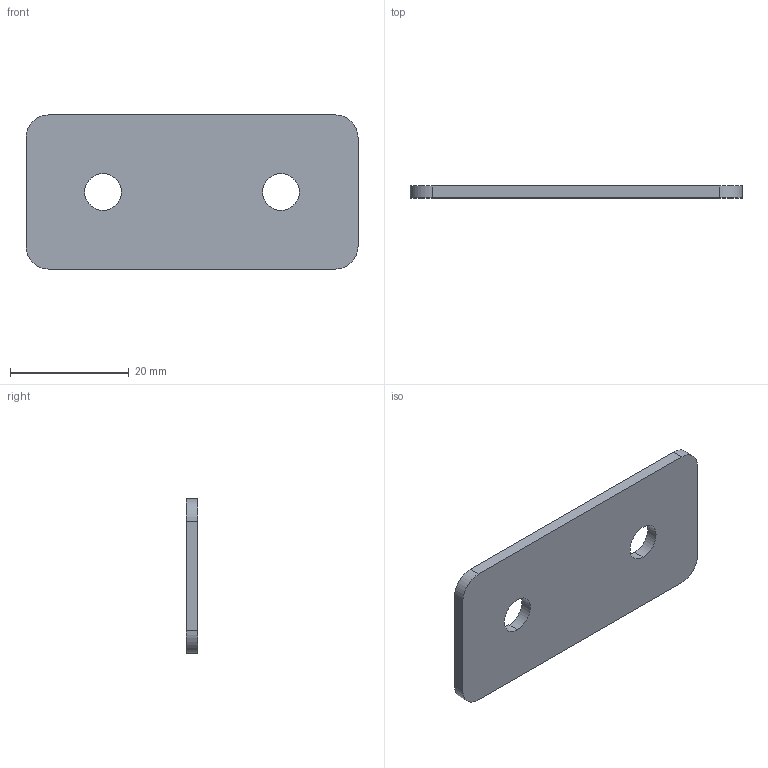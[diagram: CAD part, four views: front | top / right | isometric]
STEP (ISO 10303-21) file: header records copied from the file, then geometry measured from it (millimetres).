
FILE_DESCRIPTION (( 'STEP AP203' ), '1' );
FILE_NAME ('ﾏ-2-30.STEP', '2016-07-23T14:24:41', ( '' ), ( '' ), 'SwSTEP 2.0', 'SolidWorks 2014', '' );
FILE_SCHEMA (( 'CONFIG_CONTROL_DESIGN' ));
Length unit declared in the file: millimetre
Products named in the file (1): ﾏ-2-30
Bounding box: 56 x 2 x 26 mm (x, y, z)
Volume: 2766.7 mm3; surface area: 3159.6 mm2
Topology: 1 solids, 1 shells, 14 faces, 36 edges, 24 vertices
Faces by surface type: cylinder 8, plane 6
Entity records: 521 total; most frequent: DIRECTION 82, CARTESIAN_POINT 75, ORIENTED_EDGE 72, EDGE_CURVE 36, AXIS2_PLACEMENT_3D 31, VERTEX_POINT 24, VECTOR 20, LINE 20
